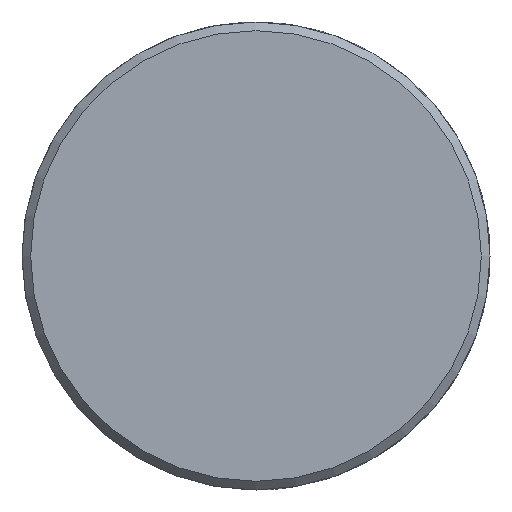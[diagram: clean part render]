
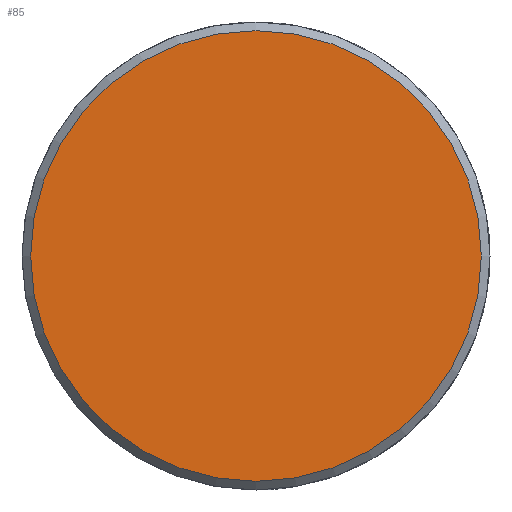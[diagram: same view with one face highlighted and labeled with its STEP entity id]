
A CAD part, front view. The second image highlights one B-rep face of the part: STEP entity #85.
In plain terms, the highlighted planar face has unit normal (0, -1, 0).
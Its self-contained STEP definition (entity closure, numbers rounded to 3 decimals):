
#85 = ADVANCED_FACE( '', ( #115 ), #116, .F. );
#115 = FACE_OUTER_BOUND( '', #150, .T. );
#116 = PLANE( '', #151 );
#150 = EDGE_LOOP( '', ( #239 ) );
#151 = AXIS2_PLACEMENT_3D( '', #240, #241, #242 );
#239 = ORIENTED_EDGE( '', *, *, #314, .T. );
#240 = CARTESIAN_POINT( '', ( 13., 0., 0. ) );
#241 = DIRECTION( '', ( 0., 1., 0. ) );
#242 = DIRECTION( '', ( 0., 0., 1. ) );
#314 = EDGE_CURVE( '', #373, #373, #374, .T. );
#373 = VERTEX_POINT( '', #542 );
#374 = CIRCLE( '', #543, 13. );
#542 = CARTESIAN_POINT( '', ( 0., 0., -13. ) );
#543 = AXIS2_PLACEMENT_3D( '', #608, #609, #610 );
#608 = CARTESIAN_POINT( '', ( 0., 0., 0. ) );
#609 = DIRECTION( '', ( 0., -1., 0. ) );
#610 = DIRECTION( '', ( 0., 0., -1. ) );
